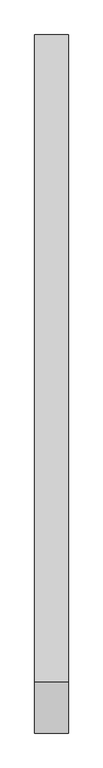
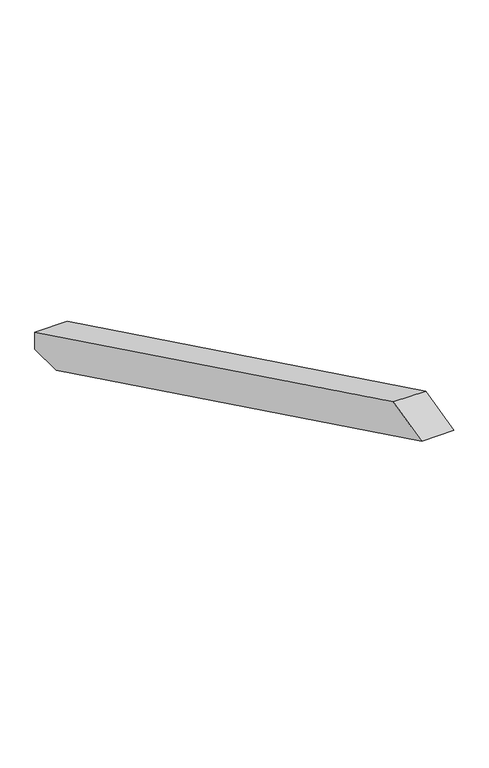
"""IFC4 building model written with IfcOpenShell, lengths in millimetres: proxy geometry, Modelos genéricos 58 : Modelos genéricos 16."""

from ifc_helpers import new_model, si_unit, frame, origin, place, context, project, spatial, polyline, outline, extrude, source, transform, mapped, element, save


def generic_models_85b707a5(model_context):
    return source(origin(), model_context, "Body", "SweptSolid", [
        extrude(outline(polyline([(723.3927505, 3756.8218964), (1878.6238165, 3193.3780582), (1878.6238165, 3160.0), (1810.1886555, 3160.0), (632.8220197, 3734.240077), (723.3927505, 3756.8218964)])), frame((-5376.5527533, 0.0, 0.0), z_axis=(1.0, 0.0, 0.0), x_axis=(0.0, 1.0, 0.0)), (0.0, 0.0, 1.0), 60.0),
    ])


if __name__ == "__main__":
    model = new_model("IFC4")
    model_context = context("Model", 3, world=origin())
    ifc_project = project(units=[si_unit("LENGTHUNIT", "METRE", prefix="MILLI")], contexts=[model_context])
    site = spatial("IfcSite", under=ifc_project)
    building = spatial("IfcBuilding", under=site)
    placement = place(None, origin())
    generic_models_shape = generic_models_85b707a5(model_context)
    element("IfcBuildingElementProxy", 1, Name="Modelos genéricos 58 : Modelos genéricos 16", ObjectType="Modelos genéricos 58 : Modelos genéricos 16", at=placement, inside=building, context=model_context, shape_type="MappedRepresentation", body=[
        mapped(generic_models_shape, transform((0.0, 0.0, 0.0), x_axis=(1.0, 0.0, 0.0), y_axis=(0.0, 1.0, 0.0), z_axis=(0.0, 0.0, 1.0))),
    ])
    save(model, "model.ifc")
